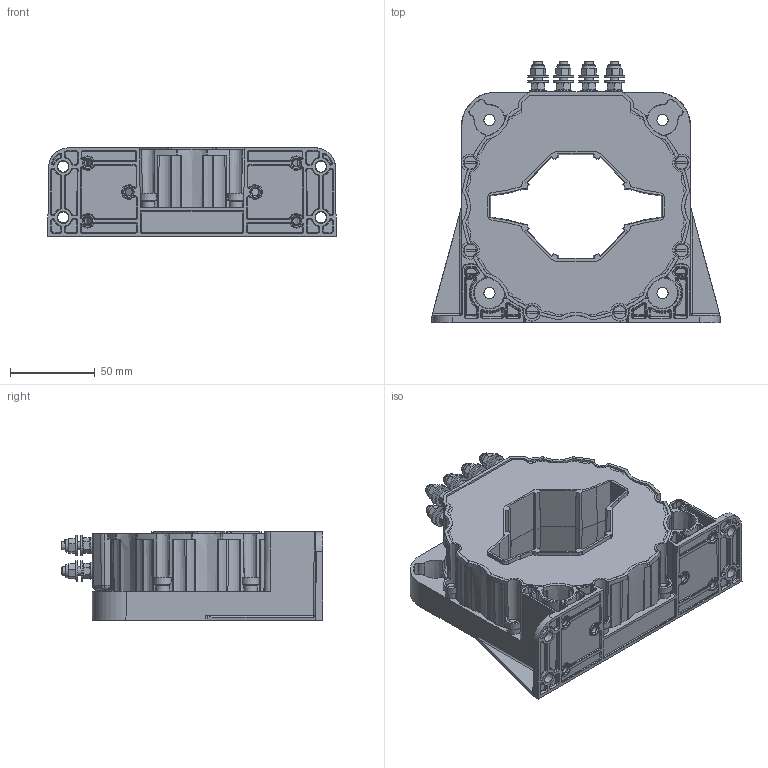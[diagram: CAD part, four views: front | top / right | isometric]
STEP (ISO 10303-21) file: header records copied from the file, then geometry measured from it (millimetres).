
FILE_DESCRIPTION((''),'2;1');
FILE_NAME('Z:\CAPM\Capteur effet hall\Produits\Gamme de produit standard\Fichier comerciaux\MSA2010.stp','2012-02-17T13:25:25',('lm'),(''),'Autodesk Inventor 2012','Autodesk Inventor 2012','');
FILE_SCHEMA(('AUTOMOTIVE_DESIGN { 1 0 10303 214 1 1 1 1 }'));
Length unit declared in the file: millimetre
Products named in the file (1): MSA2000-S-0100_Enveloppe_1
Bounding box: 170 x 154.15 x 52 mm (x, y, z)
Surface area: 145789.8 mm2 (no closed solid volume)
Topology: 0 solids, 123 shells, 1768 faces, 6311 edges, 4481 vertices
Faces by surface type: plane 634, bspline 385, cone 333, cylinder 272, torus 138, sphere 6
Full cylindrical faces by diameter (mm): 5 x6, 10 x6, 12 x12
Entity records: 87816 total; most frequent: CARTESIAN_POINT 37546, ORIENTED_EDGE 9376, DIRECTION 8997, EDGE_CURVE 6213, VERTEX_POINT 4448, AXIS2_PLACEMENT_3D 3649, EDGE_LOOP 2008, B_SPLINE_CURVE_WITH_KNOTS 1875
